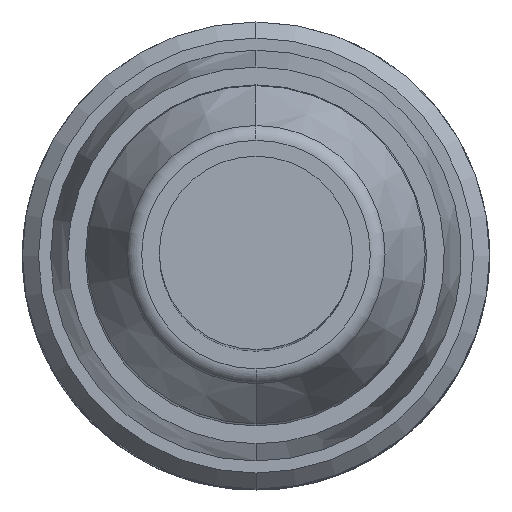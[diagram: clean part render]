
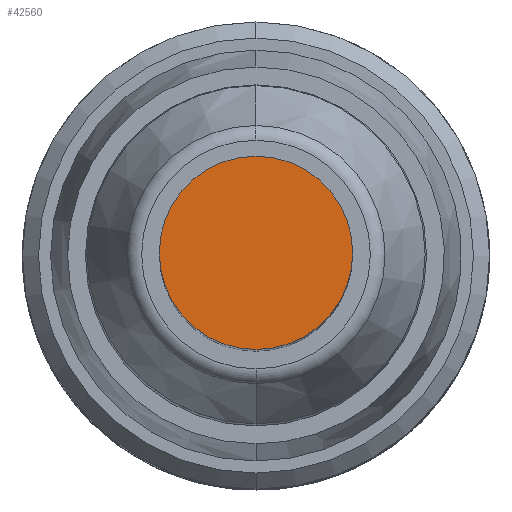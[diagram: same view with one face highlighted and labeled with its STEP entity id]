
A CAD part, top view. The second image highlights one B-rep face of the part: STEP entity #42560.
In plain terms, the highlighted planar face has unit normal (0, 0, 1) as drawn and (1, 0, 0) by its records, which use the part's own axes.
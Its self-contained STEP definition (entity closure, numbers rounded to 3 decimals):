
#42230=CARTESIAN_POINT('',(60.,2.121,
2.121));
#42240=VERTEX_POINT('',#42230);
#42270=CARTESIAN_POINT('',(60.,-0.001,
0.));
#42280=DIRECTION('',(1.,0.,
0.));
#42290=DIRECTION('',(0.,-0.707,
-0.707));
#42300=AXIS2_PLACEMENT_3D('',#42270,#42280,#42290);
#42310=CIRCLE('',#42300,3.);
#42320=CARTESIAN_POINT('',(60.,-2.122,
-2.121));
#42330=VERTEX_POINT('',#42320);
#42340=EDGE_CURVE('',#42240,#42330,#42310,.T.);
#42460=CARTESIAN_POINT('',(60.,-0.001,
0.));
#42470=DIRECTION('',(1.,0.,
0.));
#42480=DIRECTION('',(0.,-0.707,
-0.707));
#42490=AXIS2_PLACEMENT_3D('',#42460,#42470,#42480);
#42500=PLANE('',#42490);
#42510=EDGE_CURVE('',#42330,#42240,#42310,.T.);
#42520=ORIENTED_EDGE('',*,*,#42510,.T.);
#42530=ORIENTED_EDGE('',*,*,#42340,.T.);
#42540=EDGE_LOOP('',(#42530,#42520));
#42550=FACE_OUTER_BOUND('',#42540,.T.);
#42560=ADVANCED_FACE('',(#42550),#42500,.T.);
